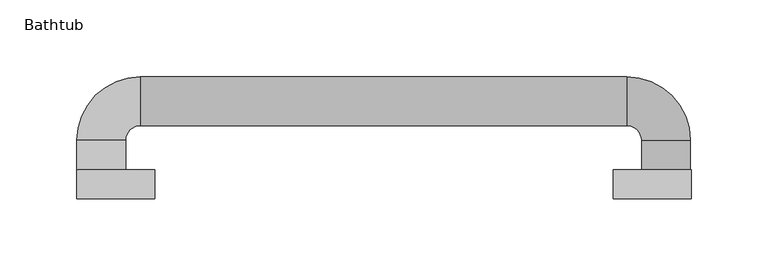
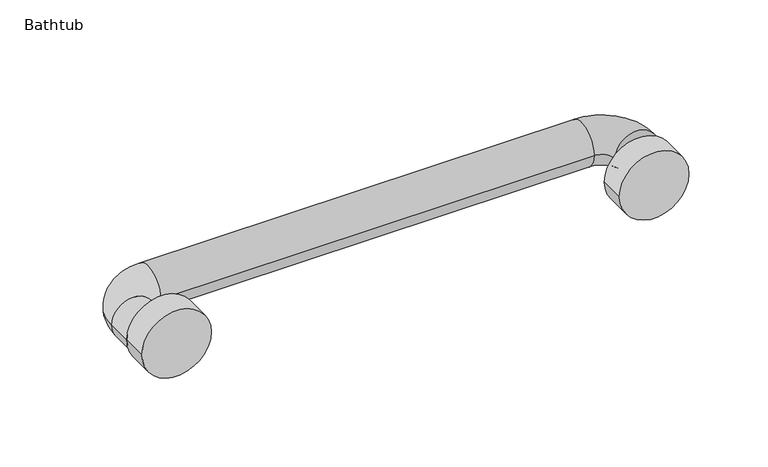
"""IFC4 building model written with IfcOpenShell, lengths in millimetres: proxy geometry, Grab_Bars_-_Toilet_4680DFGE : Bathtub."""

from ifc_helpers import new_model, si_unit, point, frame, frame_2d, origin, place, context, project, spatial, circle_curve, ellipse_curve, trimmed, segment, composite_curve, outline, extrude, source, transform, mapped, element, save
from ifc_brep_helpers import plane_surface, cylinder_surface, revolved_surface, advanced_brep


def bathtub_12557668(model_context):
    return source(origin(), model_context, "Body", "SolidModel", [
        advanced_brep(
        [(-438.0272744, 19.05, 914.4), (-469.7772744, 19.05, 914.4), (-438.0272744, 38.1, 914.4), (-469.7772744, 38.1, 914.4), (-428.5022744, 79.375, 914.4), (-428.5022744, 47.625, 914.4), (-111.8864558, 47.625, 914.4), (-111.8864558, 79.375, 914.4), (-70.6114558, 38.1, 914.4), (-102.3614558, 38.1, 914.4), (-102.3614558, 19.05, 914.4), (-70.6114558, 19.05, 914.4)],
        [
            (0, 1, circle_curve(frame((-453.9022744, 19.05, 914.4), z_axis=(0.0, -1.0, 0.0), x_axis=(-1.0, 0.0, 0.0)), 15.875)),
            (1, 0, circle_curve(frame((-453.9022744, 19.05, 914.4), z_axis=(0.0, -1.0, 0.0), x_axis=(-1.0, 0.0, 0.0)), 15.875)),
            (0, 2),
            (2, 3, circle_curve(frame((-453.9022744, 38.1, 914.4), z_axis=(0.0, -1.0, 0.0), x_axis=(-1.0, 0.0, 0.0)), 15.875)),
            (3, 1),
            (3, 2, circle_curve(frame((-453.9022744, 38.1, 914.4), z_axis=(0.0, -1.0, 0.0), x_axis=(-1.0, 0.0, 0.0)), 15.875)),
            (4, 3, circle_curve(frame((-428.5022744, 38.1, 914.4), z_axis=(0.0, 0.0, 1.0), x_axis=(-1.0, 0.0, 0.0)), 41.275)),
            (2, 5, circle_curve(frame((-428.5022744, 38.1, 914.4), z_axis=(0.0, 0.0, -1.0), x_axis=(-1.0, 0.0, 0.0)), 9.525)),
            (5, 4, circle_curve(frame((-428.5022744, 63.5, 914.4), z_axis=(-1.0, 0.0, 0.0), x_axis=(0.0, 1.0, 0.0)), 15.875)),
            (4, 5, circle_curve(frame((-428.5022744, 63.5, 914.4), z_axis=(-1.0, 0.0, 0.0), x_axis=(0.0, 1.0, 0.0)), 15.875)),
            (5, 6),
            (6, 7, circle_curve(frame((-111.8864558, 63.5, 914.4), z_axis=(-1.0, 0.0, 0.0), x_axis=(0.0, 1.0, 0.0)), 15.875)),
            (7, 4),
            (7, 6, circle_curve(frame((-111.8864558, 63.5, 914.4), z_axis=(-1.0, 0.0, 0.0), x_axis=(0.0, 1.0, 0.0)), 15.875)),
            (8, 7, circle_curve(frame((-111.8864558, 38.1, 914.4), z_axis=(0.0, 0.0, 1.0), x_axis=(0.0, 1.0, 0.0)), 41.275)),
            (6, 9, circle_curve(frame((-111.8864558, 38.1, 914.4), z_axis=(0.0, 0.0, -1.0), x_axis=(0.0, 1.0, 0.0)), 9.525)),
            (9, 8, circle_curve(frame((-86.4864558, 38.1, 914.4), z_axis=(0.0, 1.0, 0.0), x_axis=(1.0, 0.0, 0.0)), 15.875)),
            (8, 9, circle_curve(frame((-86.4864558, 38.1, 914.4), z_axis=(0.0, 1.0, 0.0), x_axis=(1.0, 0.0, 0.0)), 15.875)),
            (10, 11, circle_curve(frame((-86.4864558, 19.05, 914.4), z_axis=(0.0, -1.0, 0.0), x_axis=(1.0, 0.0, 0.0)), 15.875)),
            (11, 10, circle_curve(frame((-86.4864558, 19.05, 914.4), z_axis=(0.0, -1.0, 0.0), x_axis=(1.0, 0.0, 0.0)), 15.875)),
            (9, 10),
            (11, 8),
        ],
        [
            plane_surface(frame((-1384.1772744, 19.05, 0.0), z_axis=(0.0, -1.0, 0.0), x_axis=(0.0, 0.0, 1.0))),
            cylinder_surface(frame((-453.9022744, 19.05, 914.4), z_axis=(0.0, -1.0, 0.0), x_axis=(-1.0, 0.0, 0.0)), 15.875),
            revolved_surface(trimmed(ellipse_curve(frame((-453.9022744, 38.1, 914.4), z_axis=(0.0, -1.0, 0.0), x_axis=(-1.0, 0.0, 0.0)), 15.875, 15.875), [point((-438.0272744, 38.1, 914.4))], [point((-469.7772744, 38.1, 914.4))], True, "CARTESIAN"), (-428.5022744, 38.1, 0.0), (0.0, 0.0, -1.0)),
            revolved_surface(trimmed(ellipse_curve(frame((-453.9022744, 38.1, 914.4), z_axis=(0.0, -1.0, 0.0), x_axis=(-1.0, 0.0, 0.0)), 15.875, 15.875), [point((-469.7772744, 38.1, 914.4))], [point((-438.0272744, 38.1, 914.4))], True, "CARTESIAN"), (-428.5022744, 38.1, 0.0), (0.0, 0.0, -1.0)),
            cylinder_surface(frame((-428.5022744, 63.5, 914.4), z_axis=(-1.0, 0.0, 0.0), x_axis=(0.0, 1.0, 0.0)), 15.875),
            revolved_surface(trimmed(ellipse_curve(frame((-111.8864558, 63.5, 914.4), z_axis=(-1.0, 0.0, 0.0), x_axis=(0.0, 1.0, 0.0)), 15.875, 15.875), [point((-111.8864558, 47.625, 914.4))], [point((-111.8864558, 79.375, 914.4))], True, "CARTESIAN"), (-111.8864558, 38.1, 0.0), (0.0, 0.0, -1.0)),
            revolved_surface(trimmed(ellipse_curve(frame((-111.8864558, 63.5, 914.4), z_axis=(-1.0, 0.0, 0.0), x_axis=(0.0, 1.0, 0.0)), 15.875, 15.875), [point((-111.8864558, 79.375, 914.4))], [point((-111.8864558, 47.625, 914.4))], True, "CARTESIAN"), (-111.8864558, 38.1, 0.0), (0.0, 0.0, -1.0)),
            plane_surface(frame((-1016.7614558, 19.05, 0.0), z_axis=(0.0, -1.0, 0.0), x_axis=(0.0, 0.0, -1.0))),
            cylinder_surface(frame((-86.4864558, 38.1, 914.4), z_axis=(0.0, 1.0, 0.0), x_axis=(1.0, 0.0, 0.0)), 15.875),
        ],
        [
            (0, [[1, 2]]),
            (1, [[-1, 3, 4, 5]]),
            (1, [[-2, -5, 6, -3]]),
            (2, [[7, -4, 8, 9]]),
            (3, [[-8, -6, -7, 10]]),
            (4, [[-9, 11, 12, 13]]),
            (4, [[-10, -13, 14, -11]]),
            (5, [[15, -12, 16, 17]]),
            (6, [[-16, -14, -15, 18]]),
            (7, [[19, 20]]),
            (8, [[-17, 21, -20, 22]]),
            (8, [[-18, -22, -19, -21]]),
        ],
    ),
        extrude(outline(composite_curve([segment(trimmed(circle_curve(frame_2d((914.4, -95.4772744)), 25.4), [point((914.4, -120.8772744))], [point((914.4, -70.0772744))], False, "CARTESIAN"), True, "CONTINUOUS"), segment(trimmed(circle_curve(frame_2d((914.4, -95.4772744)), 25.4), [point((914.4, -70.0772744))], [point((914.4, -120.8772744))], False, "CARTESIAN"), True, "CONTINUOUS")], self_intersect=False)), frame((0.0, 0.0, 0.0), z_axis=(0.0, 1.0, 0.0), x_axis=(0.0, 0.0, 1.0)), (0.0, 0.0, 1.0), 19.05),
        extrude(outline(composite_curve([segment(trimmed(circle_curve(frame_2d((914.4, -444.3772744)), 25.4), [point((914.4, -469.7772744))], [point((914.4, -418.9772744))], False, "CARTESIAN"), True, "CONTINUOUS"), segment(trimmed(circle_curve(frame_2d((914.4, -444.3772744)), 25.4), [point((914.4, -418.9772744))], [point((914.4, -469.7772744))], False, "CARTESIAN"), True, "CONTINUOUS")], self_intersect=False)), frame((0.0, 0.0, 0.0), z_axis=(0.0, 1.0, 0.0), x_axis=(0.0, 0.0, 1.0)), (0.0, 0.0, 1.0), 19.05),
    ])


if __name__ == "__main__":
    model = new_model("IFC4")
    model_context = context("Model", 3, world=origin())
    ifc_project = project(units=[si_unit("LENGTHUNIT", "METRE", prefix="MILLI")], contexts=[model_context])
    site = spatial("IfcSite", under=ifc_project)
    building = spatial("IfcBuilding", under=site)
    placement = place(None, origin())
    bathtub_shape = bathtub_12557668(model_context)
    element("IfcBuildingElementProxy", 1, Name="Grab_Bars_-_Toilet_4680DFGE : Bathtub", ObjectType="Grab_Bars_-_Toilet_4680DFGE : Bathtub", at=placement, inside=building, context=model_context, shape_type="MappedRepresentation", body=[
        mapped(bathtub_shape, transform((0.0, 0.0, 0.0), x_axis=(1.0, 0.0, 0.0), y_axis=(0.0, 1.0, 0.0), z_axis=(0.0, 0.0, 1.0))),
    ])
    save(model, "model.ifc")
